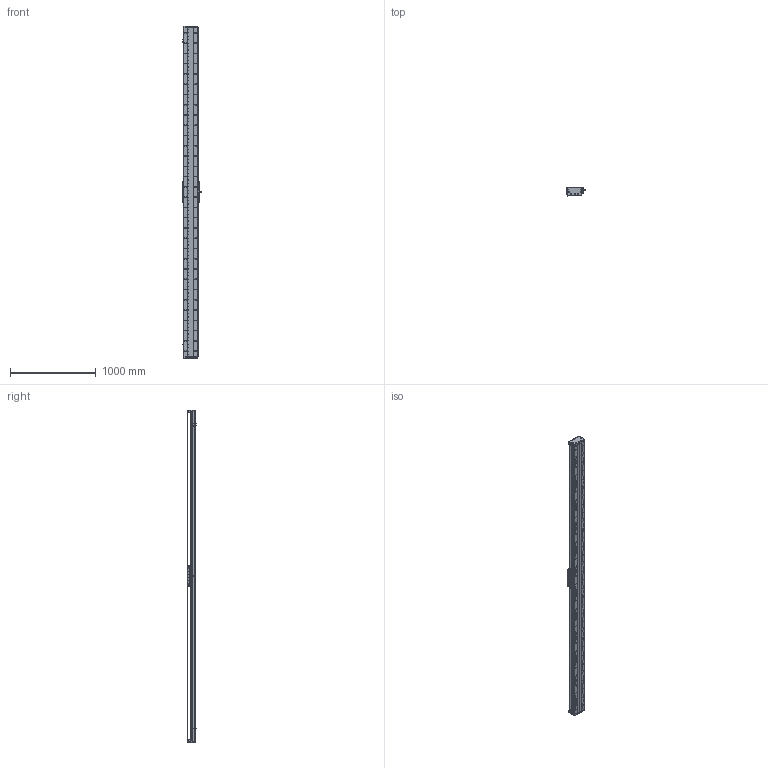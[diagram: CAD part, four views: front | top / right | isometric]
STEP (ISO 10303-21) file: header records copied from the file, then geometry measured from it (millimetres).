
FILE_DESCRIPTION (( 'STEP AP203' ), '1' );
FILE_NAME ('DA-C165-C3-T3540-C010-0.2 直线电机.STEP', '2023-06-13T09:04:50', ( '微软用户' ), ( '微软中国' ), 'SwSTEP 2.0', 'SolidWorks 2019', '' );
FILE_SCHEMA (( 'CONFIG_CONTROL_DESIGN' ));
Length unit declared in the file: millimetre
Products named in the file (18): 葩璃 CKM01-W075-TRL^DA-C165-C3-T-C010-0.2-N 眻盄萇儂; 珨极趙賑雄怢啣C3-wf; 葩璃 PM-T45^DA-C165-C3-T-C010-0.2-N 眻盄萇儂; DA-C165-C3-T3540-C010-0.2 眻盄萇儂; 复件 DA165-GDYK-00 钢带压块^复件 CU165钢带组件_DA-C165-C3-T-C010-0.2-N 直线电机; 复件 CU165钢带组件^DA-C165-C3-T-C010-0.2-N 直线电机; 复件 CU165 底座^IU-CU165-L 底座导轨_L3840; 复件 DA165-GD-DG-H-00 端盖^复件 CU165钢带组件_DA-C165-C3-T-C010-0.2-N 直线电机; 复件 DMA-010-0.2 读数头^DA-C165-C3-T-C010-0.2-N 直线电机; IU-CU165-L 菁釱絳寢; 复件 DA165-GDLK-00 钢带拉块^复件 CU165钢带组件_DA-C165-C3-T-C010-0.2-N 直线电机; 葩璃 DA95-GT-T-00^IU-CU165-L 菁釱絳寢_T; 复件 六角薄螺母 M3^DA-C165-C3-T-C010-0.2-N 直线电机_GB_FASTENER_NUT_STNAB M3-C; 复件 DA165-GD-1860-002-00 钢带盖板^复件 CU165钢带组件_DA-C165-C3-T-C010-0.2-N 直线电机; 复件 DA165-GYP-00 光电感应片^DA-C165-C3-T-C010-0.2-N 直线电机; 复件 XD-U-02L 磁栅尺^DA-C165-C3-T-C010-0.2-N 直线电机_T; 葩璃 CKM03-W075-C1C2-TP-3.0^DA-C165-C3-T-C010-0.2-N 眻盄萇儂; 复件 DA95-HXJ-00 缓冲橡胶^DA-C165-C3-T-C010-0.2-N 直线电机
Assembly tree (35 placements, depth 3):
  DA-C165-C3-T3540-C010-0.2 眻盄萇儂
    IU-CU165-L 菁釱絳寢
      复件 CU165 底座^IU-CU165-L 底座导轨_L3840
      葩璃 DA95-GT-T-00^IU-CU165-L 菁釱絳寢_T  x4
    复件 XD-U-02L 磁栅尺^DA-C165-C3-T-C010-0.2-N 直线电机_T
    葩璃 PM-T45^DA-C165-C3-T-C010-0.2-N 眻盄萇儂  x3
    葩璃 CKM01-W075-TRL^DA-C165-C3-T-C010-0.2-N 眻盄萇儂
    复件 CU165钢带组件^DA-C165-C3-T-C010-0.2-N 直线电机
      复件 DA165-GD-DG-H-00 端盖^复件 CU165钢带组件_DA-C165-C3-T-C010-0.2-N 直线电机  x2
      复件 DA165-GDYK-00 钢带压块^复件 CU165钢带组件_DA-C165-C3-T-C010-0.2-N 直线电机  x2
      复件 DA165-GD-1860-002-00 钢带盖板^复件 CU165钢带组件_DA-C165-C3-T-C010-0.2-N 直线电机
      复件 DA165-GDLK-00 钢带拉块^复件 CU165钢带组件_DA-C165-C3-T-C010-0.2-N 直线电机  x2
    复件 DA95-HXJ-00 缓冲橡胶^DA-C165-C3-T-C010-0.2-N 直线电机  x4
    复件 DA165-GYP-00 光电感应片^DA-C165-C3-T-C010-0.2-N 直线电机
    复件 DMA-010-0.2 读数头^DA-C165-C3-T-C010-0.2-N 直线电机
    葩璃 CKM03-W075-C1C2-TP-3.0^DA-C165-C3-T-C010-0.2-N 眻盄萇儂
    复件 六角薄螺母 M3^DA-C165-C3-T-C010-0.2-N 直线电机_GB_FASTENER_NUT_STNAB M3-C  x8
    珨极趙賑雄怢啣C3-wf
Bounding box: 233 x 111.45 x 3880 mm (x, y, z)
Volume: 21128371.4 mm3; surface area: 6413474.1 mm2
Topology: 72 solids, 122 shells, 4978 faces, 14795 edges, 9442 vertices
Faces by surface type: cylinder 3096, plane 1256, cone 576, torus 46, sphere 4
Entity records: 174715 total; most frequent: CARTESIAN_POINT 49969, ORIENTED_EDGE 26342, DIRECTION 25023, EDGE_CURVE 13171, AXIS2_PLACEMENT_3D 9672, VERTEX_POINT 8630, EDGE_LOOP 6027, LINE 5679
